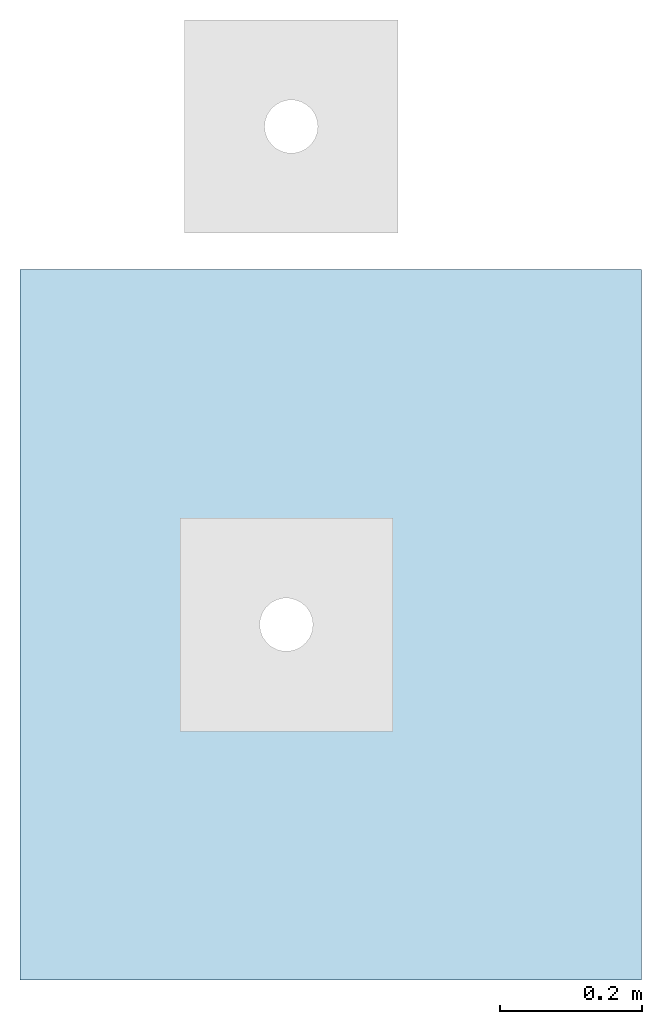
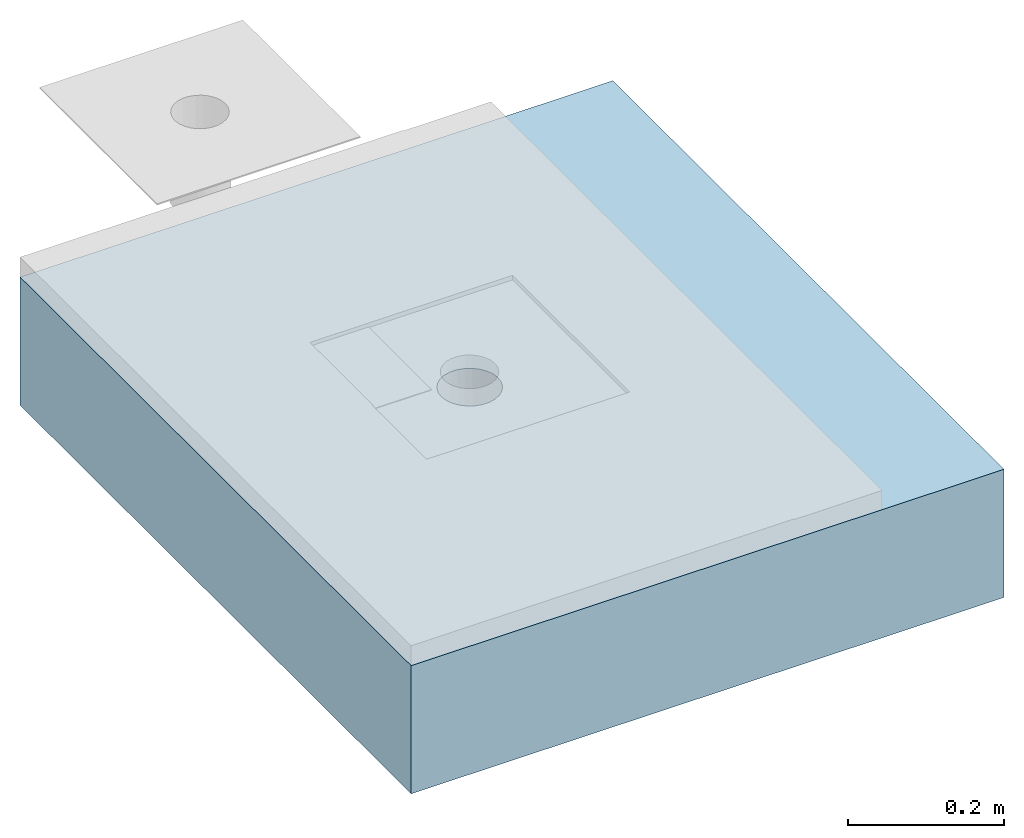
# One storey, part 1 of 3: 1 slab, 1 opening.
"""IFC2X3 building model written with IfcOpenShell, lengths in metres."""

import ifcopenshell
import ifcopenshell.guid

model = None  # the IFC model being written
_history = None  # IfcOwnerHistory: only IFC2X3 demands one
_inside = {}  # id of a spatial element -> (the spatial element, [elements in it])
_under = {}  # id of a project, library or spatial element -> (it, [spatial elements below it])
_declared = {}  # id of a project -> (the project, [libraries it declares])
_typed = {}  # id of a type object -> (the type object, [elements of that type])
_made_of = {}  # id of a material, layer set ... -> (it, [elements and type objects made of it])


def new_model(schema):
    """Start an empty IFC model of exactly this schema.

    Asked for "IFC4X3", IfcOpenShell would pick the latest addendum, in which some entities
    have other attributes; the version numbers below select the first issue.
    IFC2X3 requires an IfcOwnerHistory on every rooted entity: one is made here for all.
    """
    global model, _history
    if schema == "IFC4X3":
        model = ifcopenshell.file(schema_version=(4, 3, 0, 0))
    else:
        model = ifcopenshell.file(schema=schema)
    _inside.clear()
    _under.clear()
    _declared.clear()
    _typed.clear()
    _made_of.clear()
    _history = None
    if model.schema == "IFC2X3":
        org = make("IfcOrganization", Name="unknown")
        user = make(
            "IfcPersonAndOrganization",
            ThePerson=make("IfcPerson", FamilyName="unknown"),
            TheOrganization=org,
        )
        app = make(
            "IfcApplication",
            ApplicationDeveloper=org,
            Version="unknown",
            ApplicationFullName="unknown",
            ApplicationIdentifier="unknown",
        )
        _history = make(
            "IfcOwnerHistory",
            OwningUser=user,
            OwningApplication=app,
            ChangeAction="ADDED",
            CreationDate=0,
        )
    return model


def make(cls, **values):
    """One entity of the class cls with the attributes given. An attribute that is None is left unset."""
    return model.create_entity(
        cls, **{name: value for name, value in values.items() if value is not None}
    )


def entity(cls, *values):
    """Any entity or typed value of the class cls, its attributes in the order of the schema. None: left unset."""
    e = model.create_entity(cls)
    for i, value in enumerate(values):
        if value is not None:
            e[i] = value
    return e


def rooted(cls, **values):
    """An entity with a GlobalId (a new one), such as an element, a storey or a relation."""
    return make(cls, GlobalId=ifcopenshell.guid.new(), OwnerHistory=_history, **values)


def si_unit(unit_type, name, prefix=None):
    """IfcSIUnit, for example si_unit("LENGTHUNIT", "METRE", prefix="MILLI")."""
    return make("IfcSIUnit", UnitType=unit_type, Prefix=prefix, Name=name)


def converted_unit(unit_type, name, factor, base, dimensions=None, offset=None):
    """IfcConversionBasedUnit, such as the inch: factor (a typed value) times the base unit."""
    return make(
        "IfcConversionBasedUnit"
        if offset is None
        else "IfcConversionBasedUnitWithOffset",
        ConversionOffset=offset,
        Dimensions=None
        if dimensions is None
        else entity("IfcDimensionalExponents", *dimensions),
        UnitType=unit_type,
        Name=name,
        ConversionFactor=make(
            "IfcMeasureWithUnit", ValueComponent=factor, UnitComponent=base
        ),
    )


def derived_unit(unit_type, elements):
    """IfcDerivedUnit: a product of units, each with its exponent."""
    return make(
        "IfcDerivedUnit",
        Elements=[
            make("IfcDerivedUnitElement", Unit=unit, Exponent=power)
            for unit, power in elements
        ],
        UnitType=unit_type,
    )


def assignment(units):
    """IfcUnitAssignment: the units of a project."""
    return None if units is None else make("IfcUnitAssignment", Units=units)


def point(xyz):
    """IfcCartesianPoint."""
    return None if xyz is None else make("IfcCartesianPoint", Coordinates=xyz)


def direction(xyz):
    """IfcDirection."""
    return None if xyz is None else make("IfcDirection", DirectionRatios=xyz)


def frame(location, z_axis=None, x_axis=None):
    """IfcAxis2Placement3D, a coordinate frame: its origin and axes. An axis left out is left unset."""
    return make(
        "IfcAxis2Placement3D",
        Location=point(location),
        Axis=direction(z_axis),
        RefDirection=direction(x_axis),
    )


def frame_2d(location, x_axis=None):
    """IfcAxis2Placement2D, a coordinate frame in the plane: its origin and x axis."""
    return make(
        "IfcAxis2Placement2D", Location=point(location), RefDirection=direction(x_axis)
    )


def origin():
    """The frame at (0, 0, 0) with its axes left unset."""
    return frame((0.0, 0.0, 0.0))


def origin_2d_with_axis():
    """The frame at (0, 0) in the plane with the x axis (1, 0) written out."""
    return frame_2d((0.0, 0.0), x_axis=(1.0, 0.0))


def place(relative_to, where):
    """IfcLocalPlacement: puts the frame where relative to a parent placement (None: the world)."""
    return make(
        "IfcLocalPlacement", PlacementRelTo=relative_to, RelativePlacement=where
    )


def context(
    kind, dimensions, precision=None, world=None, true_north=None, identifier=None
):
    """IfcGeometricRepresentationContext, for example the 3D "Model" context."""
    return make(
        "IfcGeometricRepresentationContext",
        ContextIdentifier=identifier,
        ContextType=kind,
        CoordinateSpaceDimension=dimensions,
        Precision=precision,
        WorldCoordinateSystem=world,
        TrueNorth=true_north,
    )


def subcontext(parent, identifier, kind, view, scale=None):
    """IfcGeometricRepresentationSubContext, for example "Body" below "Model"."""
    return make(
        "IfcGeometricRepresentationSubContext",
        ContextIdentifier=identifier,
        ContextType=kind,
        ParentContext=parent,
        TargetScale=scale,
        TargetView=view,
    )


def project(units=None, contexts=None):
    """IfcProject with its units and contexts."""
    return rooted(
        "IfcProject",
        Name="project",
        RepresentationContexts=contexts,
        UnitsInContext=assignment(units),
    )


def spatial(cls, under=None, at=None, **own):
    """A site, building, storey or space (cls), placed at a placement, below another one or the project."""
    s = rooted(cls, ObjectPlacement=at, **own)
    if under is not None:
        _under.setdefault(under.id(), (under, []))[1].append(s)
    return s


def profile(cls, at=None, kind="AREA", **sizes):
    """A parametric profile (cls). Its sizes go by their IFC names, for example OverallWidth=200.0."""
    return make(cls, ProfileType=kind, Position=at, **sizes)


def rectangle(**sizes):
    """IfcRectangleProfileDef."""
    return profile("IfcRectangleProfileDef", **sizes)


def circle(**sizes):
    """IfcCircleProfileDef."""
    return profile("IfcCircleProfileDef", **sizes)


def extrude(swept, where, along, depth):
    """IfcExtrudedAreaSolid: the profile swept, set in the frame where, extruded along a direction by depth."""
    return make(
        "IfcExtrudedAreaSolid",
        SweptArea=swept,
        Position=where,
        ExtrudedDirection=direction(along),
        Depth=depth,
    )


def shape(context_of_items, identifier, shape_type, items):
    """IfcShapeRepresentation: the items that make up one representation, for example the "Body"."""
    return make(
        "IfcShapeRepresentation",
        ContextOfItems=context_of_items,
        RepresentationIdentifier=identifier,
        RepresentationType=shape_type,
        Items=items,
    )


def material(Name=None, Category=None):
    """IfcMaterial."""
    return make("IfcMaterial", Name=Name, Category=Category)


def layer(
    of_material, thickness, ventilated=None, Name=None, Category=None, Priority=None
):
    """IfcMaterialLayer: one layer of a wall or slab, of a material (None: an air gap)."""
    return make(
        "IfcMaterialLayer",
        Material=of_material,
        LayerThickness=thickness,
        IsVentilated=ventilated,
        Name=Name,
        Category=Category,
        Priority=Priority,
    )


def layer_set(layers, Name=None):
    """IfcMaterialLayerSet."""
    return make("IfcMaterialLayerSet", MaterialLayers=layers, LayerSetName=Name)


def layer_usage(for_layer_set, set_direction, sense, offset, extent=None):
    """IfcMaterialLayerSetUsage: how a layer set lies in its element."""
    return make(
        "IfcMaterialLayerSetUsage",
        ForLayerSet=for_layer_set,
        LayerSetDirection=set_direction,
        DirectionSense=sense,
        OffsetFromReferenceLine=offset,
        ReferenceExtent=extent,
    )


def made_of(thing, what):
    """Note that an element or type object is made of a material, layer set ...; save() writes the relation."""
    if what is not None:
        _made_of.setdefault(what.id(), (what, []))[1].append(thing)
    return thing


def type_object(cls, material=None, **own):
    """A type object (cls), such as IfcWallType, which elements share."""
    return made_of(rooted(cls, **own), material)


def element(
    cls,
    number,
    at=None,
    inside=None,
    cuts=None,
    type_object=None,
    material=None,
    context=None,
    identifier="Body",
    shape_type=None,
    held_by="IfcProductDefinitionShape",
    body=None,
    shapes=None,
    **own,
):
    """One element of the class cls, such as IfcWall. Its Tag is "e" and its number.

    at: its placement. inside: the storey or other place that contains it. cuts: it is an
    opening in that element (IfcRelVoidsElement). A single representation is given by context,
    identifier, shape_type and body (its items); several are given by shapes. held_by: the class
    of the entity that holds the representations. save() writes the other relations.
    """
    e = rooted(cls, Tag="e%d" % number, ObjectPlacement=at, **own)
    if body is not None:
        shapes = [shape(context, identifier, shape_type, body)]
    if shapes is not None:
        e.Representation = make(held_by, Representations=shapes)
    if inside is not None:
        _inside.setdefault(inside.id(), (inside, []))[1].append(e)
    if cuts is not None:
        rooted(
            "IfcRelVoidsElement", RelatingBuildingElement=cuts, RelatedOpeningElement=e
        )
    if type_object is not None:
        _typed.setdefault(type_object.id(), (type_object, []))[1].append(e)
    return made_of(e, material)


def aggregate(whole, parts):
    """IfcRelAggregates: a whole, such as a stair, and the parts it consists of."""
    return rooted("IfcRelAggregates", RelatingObject=whole, RelatedObjects=parts)


def save(model, path):
    """Write the relations noted so far, then the file.

    IfcRelAggregates (storeys below a building ...), IfcRelContainedInSpatialStructure (elements
    in a storey), IfcRelDefinesByType, IfcRelAssociatesMaterial and IfcRelDeclares: one each for
    every whole, place, type object, material and project.
    """
    for whole, parts in _under.values():
        aggregate(whole, parts)
    for where, things in _inside.values():
        rooted(
            "IfcRelContainedInSpatialStructure",
            RelatedElements=things,
            RelatingStructure=where,
        )
    for kind, things in _typed.values():
        rooted("IfcRelDefinesByType", RelatedObjects=things, RelatingType=kind)
    for what, things in _made_of.values():
        rooted("IfcRelAssociatesMaterial", RelatedObjects=things, RelatingMaterial=what)
    for by, libraries in _declared.values():
        rooted("IfcRelDeclares", RelatingContext=by, RelatedDefinitions=libraries)
    model.write(path)


model = new_model("IFC2X3")

# Units and contexts
model_context = context("Model", 3, precision=1e-05, world=origin(), true_north=direction((6.123031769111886e-17, 1.0)))
body_context = subcontext(model_context, "Body", "Model", "MODEL_VIEW")
ifc_project = project(units=[si_unit("LENGTHUNIT", "METRE"), si_unit("AREAUNIT", "SQUARE_METRE"), si_unit("VOLUMEUNIT", "CUBIC_METRE"), converted_unit("PLANEANGLEUNIT", "DEGREE", entity("IfcRatioMeasure", 0.017453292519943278), si_unit("PLANEANGLEUNIT", "RADIAN"), dimensions=[0, 0, 0, 0, 0, 0, 0]), si_unit("MASSUNIT", "GRAM", prefix="KILO"), derived_unit("MASSDENSITYUNIT", [(si_unit("MASSUNIT", "GRAM", prefix="KILO"), 1), (si_unit("LENGTHUNIT", "METRE"), -3)]), derived_unit("IONCONCENTRATIONUNIT", [(si_unit("MASSUNIT", "GRAM", prefix="KILO"), 1), (si_unit("LENGTHUNIT", "METRE"), -3)]), derived_unit("MOMENTOFINERTIAUNIT", [(si_unit("LENGTHUNIT", "METRE"), 4)]), si_unit("TIMEUNIT", "SECOND"), si_unit("FREQUENCYUNIT", "HERTZ"), si_unit("THERMODYNAMICTEMPERATUREUNIT", "DEGREE_CELSIUS"), derived_unit("THERMALTRANSMITTANCEUNIT", [(si_unit("MASSUNIT", "GRAM", prefix="KILO"), 1), (si_unit("THERMODYNAMICTEMPERATUREUNIT", "KELVIN"), -1), (si_unit("TIMEUNIT", "SECOND"), -3)]), derived_unit("THERMALCONDUCTANCEUNIT", [(si_unit("MASSUNIT", "GRAM", prefix="KILO"), 1), (si_unit("THERMODYNAMICTEMPERATUREUNIT", "KELVIN"), -1), (si_unit("TIMEUNIT", "SECOND"), -3), (si_unit("LENGTHUNIT", "METRE"), 1)]), derived_unit("VOLUMETRICFLOWRATEUNIT", [(si_unit("LENGTHUNIT", "METRE"), 3), (si_unit("TIMEUNIT", "SECOND"), -1)]), derived_unit("MASSFLOWRATEUNIT", [(si_unit("MASSUNIT", "GRAM", prefix="KILO"), 1), (si_unit("TIMEUNIT", "SECOND"), -1)]), derived_unit("ROTATIONALFREQUENCYUNIT", [(si_unit("TIMEUNIT", "SECOND"), -1)]), si_unit("ELECTRICCURRENTUNIT", "AMPERE"), si_unit("ELECTRICVOLTAGEUNIT", "VOLT"), si_unit("POWERUNIT", "WATT"), si_unit("FORCEUNIT", "NEWTON", prefix="KILO"), si_unit("ILLUMINANCEUNIT", "LUX"), si_unit("LUMINOUSFLUXUNIT", "LUMEN"), si_unit("LUMINOUSINTENSITYUNIT", "CANDELA"), derived_unit("USERDEFINED", [(si_unit("MASSUNIT", "GRAM", prefix="KILO"), -1), (si_unit("LENGTHUNIT", "METRE"), -2), (si_unit("TIMEUNIT", "SECOND"), 3), (si_unit("LUMINOUSFLUXUNIT", "LUMEN"), 1)]), derived_unit("USERDEFINED", [(si_unit("MASSUNIT", "GRAM", prefix="KILO"), 1), (si_unit("TIMEUNIT", "SECOND"), -3), (si_unit("LENGTHUNIT", "METRE"), 3), (si_unit("ELECTRICCURRENTUNIT", "AMPERE"), -2)]), derived_unit("SOUNDPOWERUNIT", [(si_unit("MASSUNIT", "GRAM", prefix="KILO"), 1), (si_unit("TIMEUNIT", "SECOND"), -3), (si_unit("LENGTHUNIT", "METRE"), 2)]), derived_unit("SOUNDPRESSUREUNIT", [(si_unit("MASSUNIT", "GRAM", prefix="KILO"), 1), (si_unit("LENGTHUNIT", "METRE"), -1), (si_unit("TIMEUNIT", "SECOND"), -2)]), derived_unit("LINEARVELOCITYUNIT", [(si_unit("LENGTHUNIT", "METRE"), 1), (si_unit("TIMEUNIT", "SECOND"), -1)]), si_unit("PRESSUREUNIT", "PASCAL"), derived_unit("USERDEFINED", [(si_unit("MASSUNIT", "GRAM", prefix="KILO"), 1), (si_unit("LENGTHUNIT", "METRE"), -2), (si_unit("TIMEUNIT", "SECOND"), -2)]), derived_unit("LINEARFORCEUNIT", [(si_unit("MASSUNIT", "GRAM", prefix="KILO"), 1), (si_unit("TIMEUNIT", "SECOND"), -2)]), derived_unit("PLANARFORCEUNIT", [(si_unit("MASSUNIT", "GRAM", prefix="KILO"), 1), (si_unit("LENGTHUNIT", "METRE"), -1), (si_unit("TIMEUNIT", "SECOND"), -2)]), derived_unit("SPECIFICHEATCAPACITYUNIT", [(si_unit("THERMODYNAMICTEMPERATUREUNIT", "KELVIN"), -1), (si_unit("LENGTHUNIT", "METRE"), 2), (si_unit("TIMEUNIT", "SECOND"), -2)]), derived_unit("HEATINGVALUEUNIT", [(si_unit("LENGTHUNIT", "METRE"), 2), (si_unit("TIMEUNIT", "SECOND"), -2)]), derived_unit("VAPORPERMEABILITYUNIT", [(si_unit("LENGTHUNIT", "METRE"), -1), (si_unit("TIMEUNIT", "SECOND"), 1)]), derived_unit("DYNAMICVISCOSITYUNIT", [(si_unit("MASSUNIT", "GRAM", prefix="KILO"), 1), (si_unit("TIMEUNIT", "SECOND"), -1), (si_unit("LENGTHUNIT", "METRE"), -1)]), derived_unit("THERMALEXPANSIONCOEFFICIENTUNIT", [(si_unit("THERMODYNAMICTEMPERATUREUNIT", "KELVIN"), -1)]), derived_unit("MODULUSOFELASTICITYUNIT", [(si_unit("MASSUNIT", "GRAM", prefix="KILO"), 1), (si_unit("LENGTHUNIT", "METRE"), -1), (si_unit("TIMEUNIT", "SECOND"), -2)]), derived_unit("ISOTHERMALMOISTURECAPACITYUNIT", [(si_unit("LENGTHUNIT", "METRE"), 3), (si_unit("MASSUNIT", "GRAM", prefix="KILO"), -1)]), derived_unit("MOISTUREDIFFUSIVITYUNIT", [(si_unit("TIMEUNIT", "SECOND"), -1), (si_unit("LENGTHUNIT", "METRE"), 2)])], contexts=[model_context])

# Site, building, storey
site_placement = place(None, origin())
site = spatial("IfcSite", under=ifc_project, at=site_placement, Name="Default", CompositionType="ELEMENT")
building_placement = place(site_placement, origin())
building = spatial("IfcBuilding", under=site, at=building_placement, CompositionType="ELEMENT")
storey_placement = place(building_placement, frame((0.0, 0.0, -0.0025237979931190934)))
storey = spatial("IfcBuildingStorey", under=building, at=storey_placement, Name="ARQ Térreo", CompositionType="ELEMENT", Elevation=-0.0025237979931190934)

# Slab, opening
ifc_material = material(Name="#concreto")
ifc_layer = layer(ifc_material, 0.2)
ifc_layer_set = layer_set([ifc_layer], Name="Piso:Piso:LAJE CONCRETO")
ifc_layer_usage = layer_usage(ifc_layer_set, "AXIS3", "POSITIVE", 0.0)
slab_type = type_object("IfcSlabType", Name="Piso:Piso:LAJE CONCRETO", PredefinedType="FLOOR", material=ifc_layer_set)
slab_placement = place(storey_placement, frame((0.5478103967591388, -1.7380570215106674, -0.20000000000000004)))
slab = element("IfcSlab", 1, at=slab_placement, inside=storey, type_object=slab_type, material=ifc_layer_usage, Name="Piso:Piso:LAJE CONCRETO", ObjectType="Piso:Piso:LAJE CONCRETO", PredefinedType="FLOOR", context=body_context, shape_type="SweptSolid", body=[
    extrude(rectangle(XDim=0.8750000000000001, YDim=0.9999999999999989, at=origin_2d_with_axis()), frame((0.43750000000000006, 0.4999999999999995, 0.2), z_axis=(0.0, 0.0, -1.0), x_axis=(-1.0, 0.0, 0.0)), (0.0, 0.0, 1.0), 0.2),
])
opening_placement = place(slab_placement, origin())
element("IfcOpeningElement", 2, at=opening_placement, cuts=slab, Name="Piso:Piso:LAJE CONCRETO", ObjectType="Opening", context=body_context, shape_type="SweptSolid", body=[
    extrude(circle(Radius=0.042, at=origin_2d_with_axis()), frame((0.3749999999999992, 0.4999999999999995, 0.2), z_axis=(0.0, 0.0, -1.0), x_axis=(1.0, 0.0, 0.0)), (0.0, 0.0, 1.0), 0.2),
])

save(model, "model.ifc")
